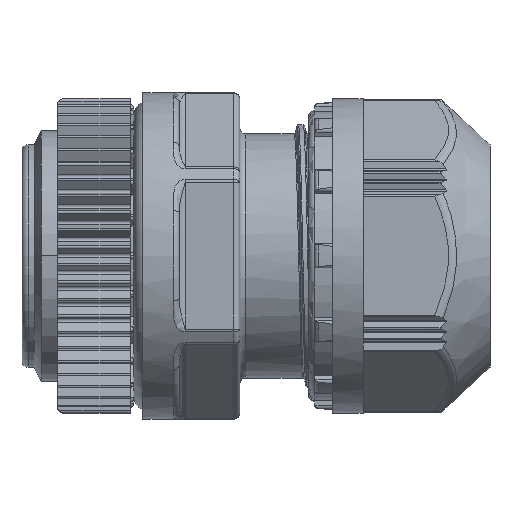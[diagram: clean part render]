
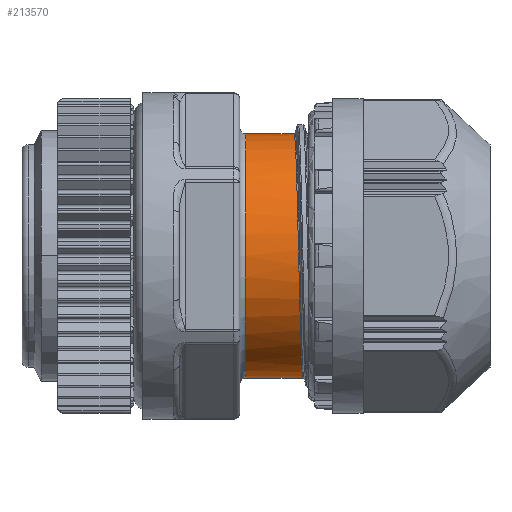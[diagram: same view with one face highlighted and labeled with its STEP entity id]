
A CAD part, top view. The second image highlights one B-rep face of the part: STEP entity #213570.
In plain terms, the highlighted cylindrical face has radius 10.1 mm (diameter 20.2 mm), a partial arc.
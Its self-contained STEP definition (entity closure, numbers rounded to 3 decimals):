
#212750=CARTESIAN_POINT('',(111.933,62.539,0.));
#212760=VERTEX_POINT('',#212750);
#212790=CARTESIAN_POINT('',(111.933,52.439,0.));
#212800=DIRECTION('',(1.,0.,0.));
#212810=DIRECTION('',(0.,-1.,0.));
#212820=AXIS2_PLACEMENT_3D('',#212790,#212800,#212810);
#212830=CIRCLE('',#212820,10.1);
#212840=CARTESIAN_POINT('',(111.933,42.339,0.));
#212850=VERTEX_POINT('',#212840);
#212860=EDGE_CURVE('',#212760,#212850,#212830,.T.);
#212990=CARTESIAN_POINT('',(116.533,52.439,0.));
#213000=DIRECTION('',(1.,0.,0.));
#213010=DIRECTION('',(0.,-1.,0.));
#213020=AXIS2_PLACEMENT_3D('',#212990,#213000,#213010);
#213030=CYLINDRICAL_SURFACE('',#213020,10.1);
#213040=CARTESIAN_POINT('',(116.533,62.539,
0.));
#213050=DIRECTION('',(1.,0.,0.));
#213060=VECTOR('',#213050,1.);
#213070=LINE('',#213040,#213060);
#213080=CARTESIAN_POINT('',(115.933,62.539,
0.));
#213090=VERTEX_POINT('',#213080);
#213100=EDGE_CURVE('',#212760,#213090,#213070,.T.);
#213110=ORIENTED_EDGE('',*,*,#213100,.F.);
#213120=CARTESIAN_POINT('',(115.933,62.539,
0.));
#213130=CARTESIAN_POINT('',(116.073,62.539,
5.916));
#213140=CARTESIAN_POINT('',(116.168,58.355,10.1));
#213150=CARTESIAN_POINT('',(116.308,52.439,10.1));
#213160=CARTESIAN_POINT('',(116.448,46.522,10.1));
#213170=CARTESIAN_POINT('',(116.543,42.339,
5.916));
#213180=CARTESIAN_POINT('',(116.683,42.339,
0.));
#213190=CARTESIAN_POINT('',(116.823,42.339,
-5.916));
#213200=CARTESIAN_POINT('',(116.918,46.522,-10.1));
#213210=CARTESIAN_POINT('',(117.058,52.439,-10.1));
#213220=CARTESIAN_POINT('',(117.198,58.355,-10.1));
#213230=CARTESIAN_POINT('',(117.293,62.539,
-5.916));
#213240=CARTESIAN_POINT('',(117.433,62.539,
0.));
#213250=CARTESIAN_POINT('',(117.573,62.539,
5.916));
#213260=CARTESIAN_POINT('',(117.668,58.355,10.1));
#213270=CARTESIAN_POINT('',(117.808,52.439,10.1));
#213280=CARTESIAN_POINT('',(117.948,46.522,10.1));
#213290=CARTESIAN_POINT('',(118.043,42.339,
5.916));
#213300=CARTESIAN_POINT('',(118.183,42.339,
0.));
#213310=CARTESIAN_POINT('',(118.323,42.339,
-5.916));
#213320=CARTESIAN_POINT('',(118.418,46.522,-10.1));
#213330=CARTESIAN_POINT('',(118.558,52.439,-10.1));
#213340=CARTESIAN_POINT('',(118.698,58.355,-10.1));
#213350=CARTESIAN_POINT('',(118.793,62.539,
-5.916));
#213360=CARTESIAN_POINT('',(118.933,62.539,
0.));
#213370=CARTESIAN_POINT('',(119.073,62.539,
5.916));
#213380=CARTESIAN_POINT('',(119.168,58.355,10.1));
#213390=CARTESIAN_POINT('',(119.308,52.439,10.1));
#213400=CARTESIAN_POINT('',(119.448,46.522,10.1));
#213410=CARTESIAN_POINT('',(119.543,42.339,
5.916));
#213420=CARTESIAN_POINT('',(119.683,42.339,
0.));
#213430=(BOUNDED_CURVE() B_SPLINE_CURVE(3,(#213120,#213130,#213140,
#213150,#213160,#213170,#213180,#213190,#213200,#213210,#213220,#213230,
#213240,#213250,#213260,#213270,#213280,#213290,#213300,#213310,#213320,
#213330,#213340,#213350,#213360,#213370,#213380,#213390,#213400,#213410,
#213420),.UNSPECIFIED.,.F.,.F.) B_SPLINE_CURVE_WITH_KNOTS((4,3,3,3,3,3,3
,3,3,3,4),(0.,0.828,1.657,2.485,
3.314,4.142,4.971,5.799,
6.627,7.456,8.284),.UNSPECIFIED.) CURVE(
) GEOMETRIC_REPRESENTATION_ITEM() RATIONAL_B_SPLINE_CURVE((
1.172,0.943,0.943,1.172,
0.943,0.943,1.172,0.943,
0.943,1.172,0.943,0.943,
1.172,0.943,0.943,1.172,
0.943,0.943,1.172,0.943,
0.943,1.172,0.943,0.943,
1.172,0.943,0.943,1.172,
0.943,0.943,1.172)) 
REPRESENTATION_ITEM(''));
#213440=CARTESIAN_POINT('',(116.683,42.339,0.));
#213450=VERTEX_POINT('',#213440);
#213460=EDGE_CURVE('',#213090,#213450,#213430,.T.);
#213470=ORIENTED_EDGE('',*,*,#213460,.F.);
#213480=CARTESIAN_POINT('',(116.533,42.339,0.));
#213490=DIRECTION('',(1.,0.,0.));
#213500=VECTOR('',#213490,1.);
#213510=LINE('',#213480,#213500);
#213520=EDGE_CURVE('',#212850,#213450,#213510,.T.);
#213530=ORIENTED_EDGE('',*,*,#213520,.T.);
#213540=ORIENTED_EDGE('',*,*,#212860,.T.);
#213550=EDGE_LOOP('',(#213540,#213530,#213470,#213110));
#213560=FACE_OUTER_BOUND('',#213550,.T.);
#213570=ADVANCED_FACE('',(#213560),#213030,.T.);
